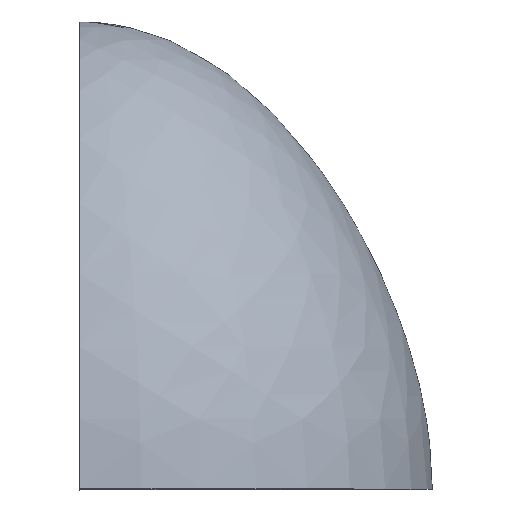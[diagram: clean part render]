
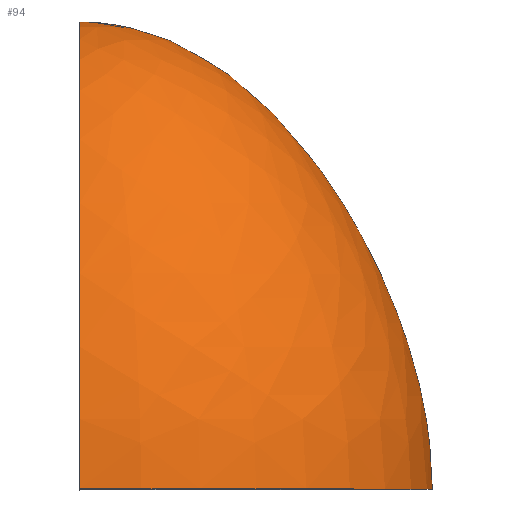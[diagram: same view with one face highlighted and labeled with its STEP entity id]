
A CAD part, top view. The second image highlights one B-rep face of the part: STEP entity #94.
In plain terms, the highlighted face is a revolution surface.
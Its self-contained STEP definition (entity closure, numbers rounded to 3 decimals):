
#52=CARTESIAN_POINT('Control Point',(0.,0.,86.)) ;
#53=CARTESIAN_POINT('Control Point',(0.,28.56,86.)) ;
#54=CARTESIAN_POINT('Control Point',(0.,60.63,75.21)) ;
#55=CARTESIAN_POINT('Control Point',(0.,96.21,53.63)) ;
#56=CARTESIAN_POINT('Control Point',(0.,114.,28.56)) ;
#57=CARTESIAN_POINT('Control Point',(0.,114.,0.)) ;
#58=CARTESIAN_POINT('Axis1P Location',(0.,0.,0.)) ;
#63=CARTESIAN_POINT('Control Point',(0.,0.,-86.)) ;
#64=CARTESIAN_POINT('Control Point',(0.,28.56,-86.)) ;
#65=CARTESIAN_POINT('Control Point',(0.,60.63,-75.21)) ;
#66=CARTESIAN_POINT('Control Point',(0.,96.21,-53.63)) ;
#67=CARTESIAN_POINT('Control Point',(0.,114.,-28.56)) ;
#68=CARTESIAN_POINT('Control Point',(0.,114.,0.)) ;
#69=CARTESIAN_POINT('Vertex',(0.,0.,-86.)) ;
#71=CARTESIAN_POINT('Vertex',(0.,114.,0.)) ;
#75=CARTESIAN_POINT('Control Point',(0.,0.,86.)) ;
#76=CARTESIAN_POINT('Control Point',(0.,28.56,86.)) ;
#77=CARTESIAN_POINT('Control Point',(0.,60.63,75.21)) ;
#78=CARTESIAN_POINT('Control Point',(0.,96.21,53.63)) ;
#79=CARTESIAN_POINT('Control Point',(0.,114.,28.56)) ;
#80=CARTESIAN_POINT('Control Point',(0.,114.,0.)) ;
#81=CARTESIAN_POINT('Vertex',(0.,0.,86.)) ;
#84=CARTESIAN_POINT('Axis2P3D Location',(0.,0.,0.)) ;
#59=DIRECTION('Axis1P Direction',(0.,1.,0.)) ;
#85=DIRECTION('Axis2P3D Direction',(0.,1.,0.)) ;
#86=AXIS2_PLACEMENT_3D('Circle Axis2P3D',#84,#85,$) ;
#90=ORIENTED_EDGE('',*,*,#73,.T.) ;
#91=ORIENTED_EDGE('',*,*,#83,.F.) ;
#92=ORIENTED_EDGE('',*,*,#88,.T.) ;
#94=ADVANCED_FACE('PartBody',(#93),#61,.T.) ;
#60=AXIS1_PLACEMENT('Revolution Surface Axis1P',#58,#59) ;
#51=B_SPLINE_CURVE_WITH_KNOTS('',5,(#52,#53,#54,#55,#56,#57),.UNSPECIFIED.,.F.,.U.,(6,6),(0.,142.801),.UNSPECIFIED.) ;
#62=B_SPLINE_CURVE_WITH_KNOTS('',5,(#63,#64,#65,#66,#67,#68),.UNSPECIFIED.,.F.,.U.,(6,6),(0.,142.801),.UNSPECIFIED.) ;
#74=B_SPLINE_CURVE_WITH_KNOTS('',5,(#75,#76,#77,#78,#79,#80),.UNSPECIFIED.,.F.,.U.,(6,6),(0.,142.801),.UNSPECIFIED.) ;
#87=CIRCLE('generated circle',#86,86.) ;
#73=EDGE_CURVE('',#70,#72,#62,.T.) ;
#83=EDGE_CURVE('',#82,#72,#74,.T.) ;
#88=EDGE_CURVE('',#82,#70,#87,.T.) ;
#89=EDGE_LOOP('',(#90,#91,#92)) ;
#93=FACE_OUTER_BOUND('',#89,.T.) ;
#61=SURFACE_OF_REVOLUTION('Surface of Revolution',#51,#60) ;
#70=VERTEX_POINT('',#69) ;
#72=VERTEX_POINT('',#71) ;
#82=VERTEX_POINT('',#81) ;
